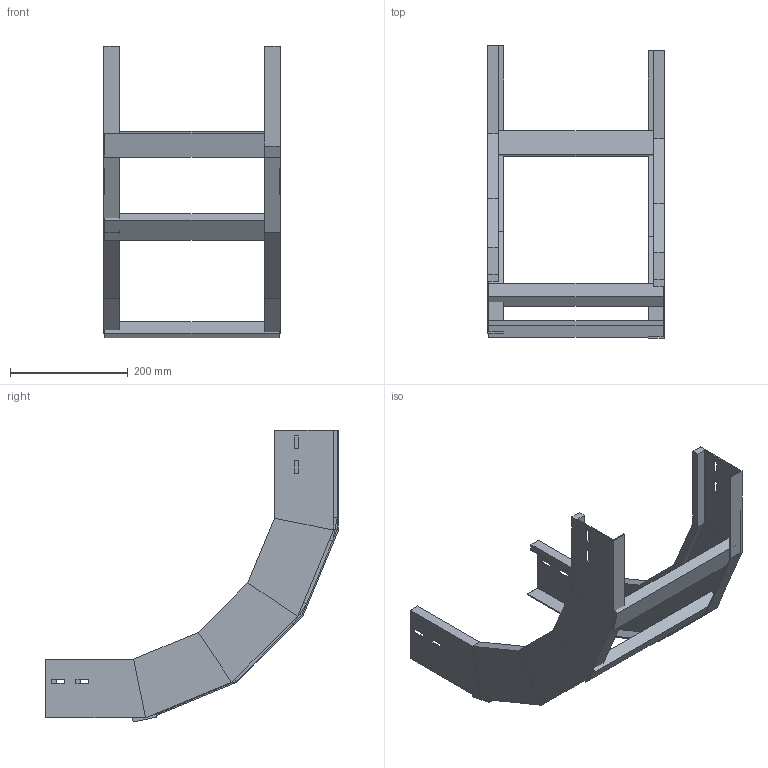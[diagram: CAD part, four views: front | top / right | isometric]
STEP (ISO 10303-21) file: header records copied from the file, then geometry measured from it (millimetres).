
FILE_DESCRIPTION (( 'STEP AP214' ), '1' );
FILE_NAME ('A2X30B3D300XX.step', '2025-04-02T08:56:17', ( '' ), ( '' ), 'SwSTEP 2.0', 'SolidWorks 2023', '' );
FILE_SCHEMA (( 'AUTOMOTIVE_DESIGN' ));
Length unit declared in the file: millimetre
Products named in the file (3): LONGH.SALITA_90°_H100_R300; TRAVERSINO_300; A2X30B3D300XX
Assembly tree (5 placements, depth 2):
  A2X30B3D300XX
    LONGH.SALITA_90°_H100_R300  x2
    TRAVERSINO_300  x3
Bounding box: 300 x 497.32 x 495.32 mm (x, y, z)
Volume: 1347586.2 mm3; surface area: 536353.5 mm2
Topology: 5 solids, 5 shells, 134 faces, 308 edges, 184 vertices
Faces by surface type: plane 134
Entity records: 1864 total; most frequent: CARTESIAN_POINT 308, ORIENTED_EDGE 296, DIRECTION 292, LINE 148, EDGE_CURVE 148, VECTOR 148, VERTEX_POINT 88, EDGE_LOOP 72
